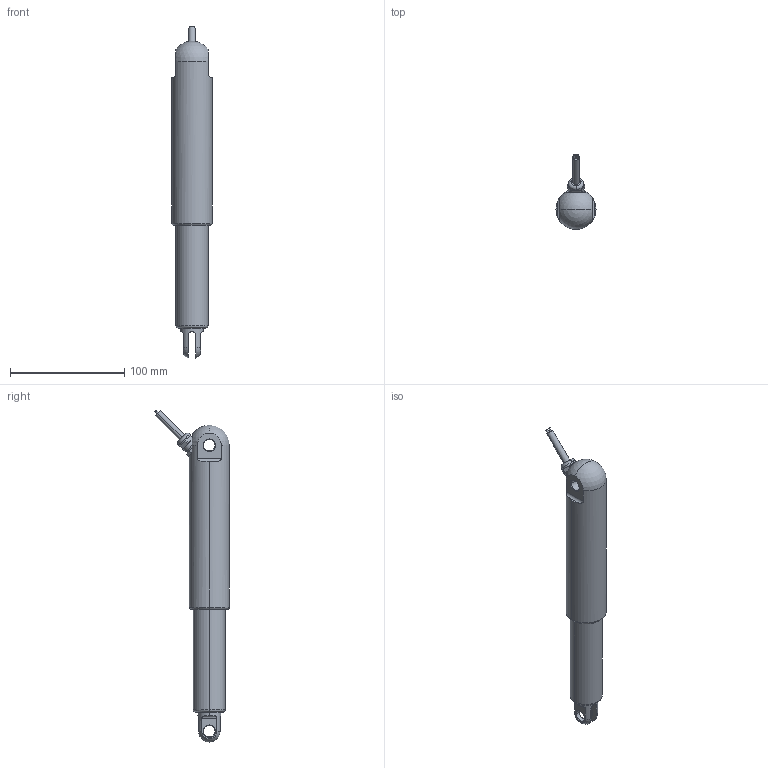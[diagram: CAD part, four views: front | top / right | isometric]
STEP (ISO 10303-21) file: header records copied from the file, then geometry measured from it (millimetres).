
FILE_DESCRIPTION((''),'2;1');
FILE_NAME('ST35-50MM-200','2016-12-15T',('Aklek'),(''),'PRO/ENGINEER BY PARAMETRIC TECHNOLOGY CORPORATION, 2010100','PRO/ENGINEER BY PARAMETRIC TECHNOLOGY CORPORATION, 2010100','');
FILE_SCHEMA(('CONFIG_CONTROL_DESIGN'));
Length unit declared in the file: millimetre
Products named in the file (1): ST35-50MM-200
Bounding box: 35 x 65.28 x 290.2 mm (x, y, z)
Volume: 205283.9 mm3; surface area: 30374.2 mm2
Topology: 1 solids, 1 shells, 111 faces, 273 edges, 171 vertices
Faces by surface type: cylinder 47, plane 35, torus 10, cone 8, bspline 7, sphere 4
Entity records: 3732 total; most frequent: CARTESIAN_POINT 1029, DIRECTION 584, ORIENTED_EDGE 542, EDGE_CURVE 271, AXIS2_PLACEMENT_3D 236, VERTEX_POINT 171, CIRCLE 132, EDGE_LOOP 126
